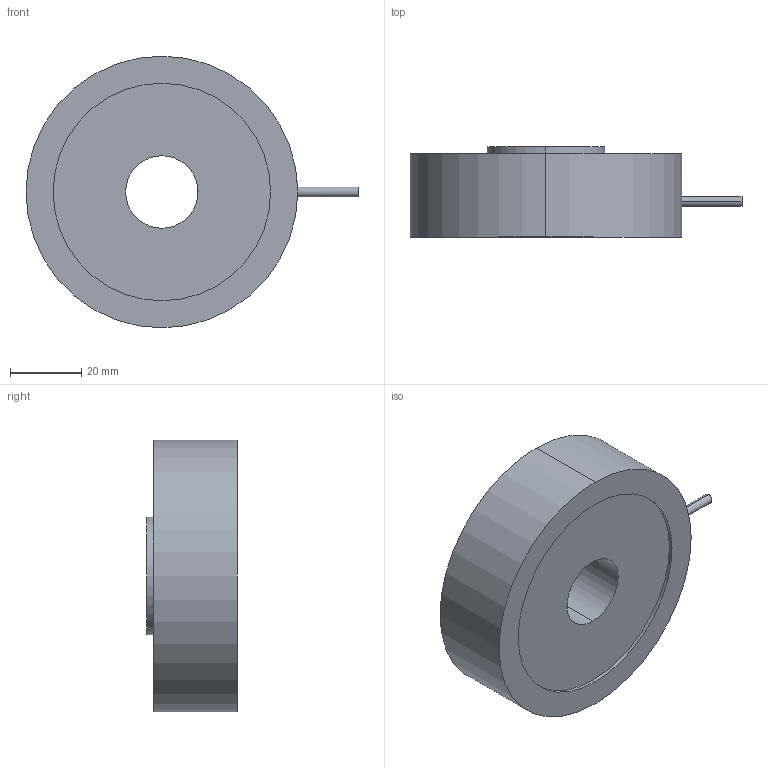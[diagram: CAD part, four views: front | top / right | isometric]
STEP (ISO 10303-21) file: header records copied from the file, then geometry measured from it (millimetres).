
FILE_DESCRIPTION (( 'STEP AP203' ), '1' );
FILE_NAME ('100,200kN-M20.STEP', '2025-10-03T22:49:25', ( '' ), ( '' ), 'SwSTEP 2.0', 'SolidWorks 2024', '' );
FILE_SCHEMA (( 'CONFIG_CONTROL_DESIGN' ));
Length unit declared in the file: millimetre
Products named in the file (1): 100,200kN-M20
Bounding box: 93.1 x 25.4 x 76.2 mm (x, y, z)
Volume: 91005.2 mm3; surface area: 16603.4 mm2
Topology: 1 solids, 1 shells, 26 faces, 52 edges, 32 vertices
Faces by surface type: cylinder 12, plane 6, torus 4, cone 4
Entity records: 847 total; most frequent: CARTESIAN_POINT 201, DIRECTION 134, ORIENTED_EDGE 104, AXIS2_PLACEMENT_3D 59, EDGE_CURVE 52, CIRCLE 32, EDGE_LOOP 32, VERTEX_POINT 32
